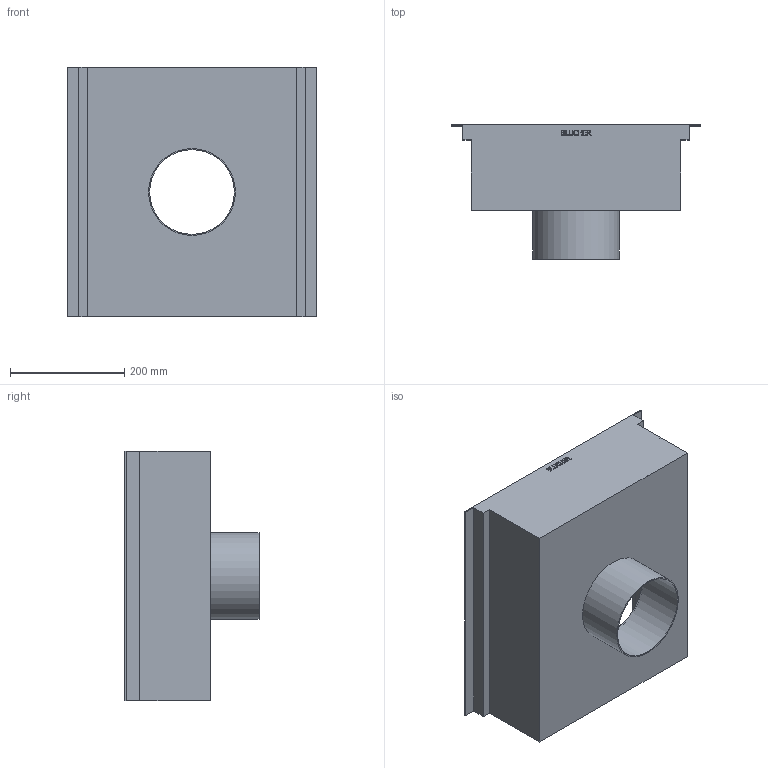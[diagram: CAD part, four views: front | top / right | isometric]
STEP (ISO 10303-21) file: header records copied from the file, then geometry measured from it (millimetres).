
FILE_DESCRIPTION((''),'2;1');
FILE_NAME('I:\WATTS\3D_CAD\3D_CAD_Models\Blucher_Drains\BKC_KitchenChannels\BKC-100\WebsiteFiles\3D\STEP\BKC-106-6.stp','2009-11-23T15:46:33',('menesek'),(''),'Autodesk Inventor 2010','Autodesk Inventor 2010','');
FILE_SCHEMA(('AUTOMOTIVE_DESIGN { 1 0 10303 214 1 1 1 1 }'));
Length unit declared in the file: inch
Products named in the file (1): BKC-106-6
Bounding box: 437 x 235 x 437 mm (x, y, z)
Volume: 904101.2 mm3; surface area: 908656.2 mm2
Topology: 1 solids, 1 shells, 142 faces, 384 edges, 256 vertices
Faces by surface type: plane 95, bspline 45, cylinder 2
Full cylindrical faces by diameter (mm): 148.4 x1, 152.4 x1
Entity records: 4799 total; most frequent: CARTESIAN_POINT 1501, ORIENTED_EDGE 764, DIRECTION 492, EDGE_CURVE 382, VECTOR 288, LINE 288, VERTEX_POINT 256, EDGE_LOOP 158
